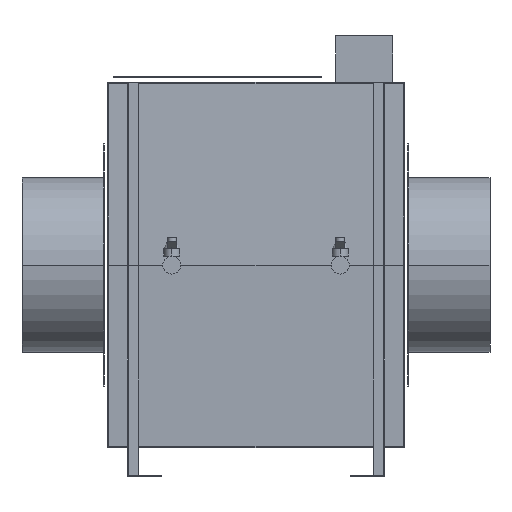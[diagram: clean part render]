
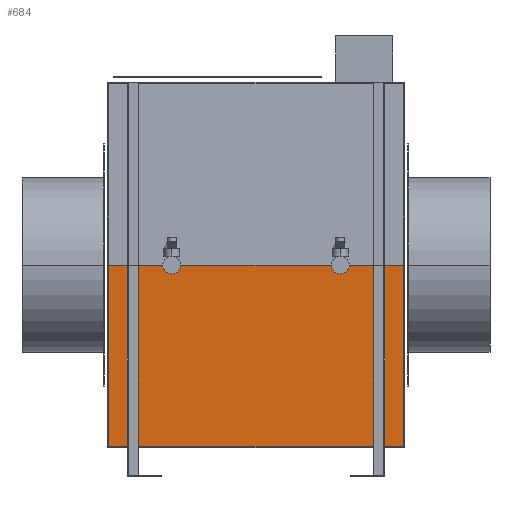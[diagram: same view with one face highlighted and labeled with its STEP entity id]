
A CAD part, front view. The second image highlights one B-rep face of the part: STEP entity #684.
In plain terms, the highlighted planar face has unit normal (0, -1, -0.031).
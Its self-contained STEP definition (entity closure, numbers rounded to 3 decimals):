
#145=DIRECTION('',(0.,0.031,-1.));
#146=VECTOR('',#145,320.156);
#147=CARTESIAN_POINT('',(260.,-367.5,0.));
#148=LINE('',#147,#146);
#187=DIRECTION('',(0.,0.031,-1.));
#188=VECTOR('',#187,320.156);
#189=CARTESIAN_POINT('',(-260.,-367.5,0.));
#190=LINE('',#189,#188);
#297=DIRECTION('',(1.,0.,0.));
#298=VECTOR('',#297,520.);
#299=CARTESIAN_POINT('',(-260.,-367.5,0.));
#300=LINE('',#299,#298);
#301=DIRECTION('',(1.,0.,0.));
#302=VECTOR('',#301,520.);
#303=CARTESIAN_POINT('',(-260.,-357.5,-320.));
#304=LINE('',#303,#302);
#343=CARTESIAN_POINT('',(-260.,-367.5,0.));
#344=VERTEX_POINT('',#343);
#345=CARTESIAN_POINT('',(-260.,-357.5,-320.));
#346=VERTEX_POINT('',#345);
#353=CARTESIAN_POINT('',(260.,-367.5,0.));
#354=VERTEX_POINT('',#353);
#355=CARTESIAN_POINT('',(260.,-357.5,-320.));
#356=VERTEX_POINT('',#355);
#672=CARTESIAN_POINT('',(-260.,-367.5,0.));
#673=DIRECTION('',(0.,-1.,-0.031));
#674=DIRECTION('',(0.,0.031,-1.));
#675=AXIS2_PLACEMENT_3D('',#672,#673,#674);
#676=PLANE('',#675);
#677=ORIENTED_EDGE('',*,*,#508,.F.);
#678=ORIENTED_EDGE('',*,*,#667,.T.);
#679=ORIENTED_EDGE('',*,*,#457,.T.);
#681=ORIENTED_EDGE('',*,*,#680,.F.);
#682=EDGE_LOOP('',(#677,#678,#679,#681));
#683=FACE_OUTER_BOUND('',#682,.F.);
#457=EDGE_CURVE('',#354,#356,#148,.T.);
#508=EDGE_CURVE('',#344,#346,#190,.T.);
#667=EDGE_CURVE('',#344,#354,#300,.T.);
#680=EDGE_CURVE('',#346,#356,#304,.T.);
#684=ADVANCED_FACE('',(#683),#676,.T.);
